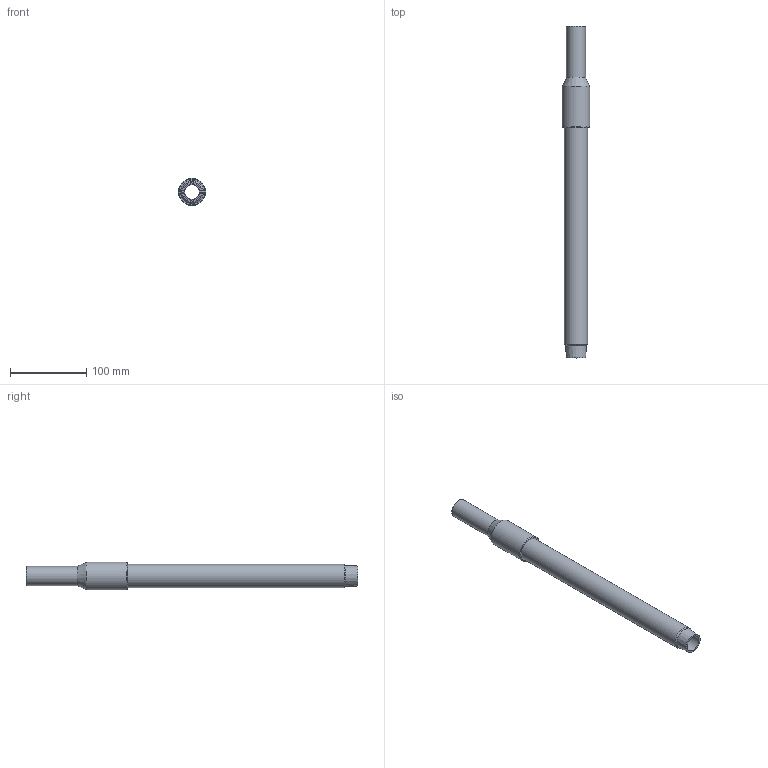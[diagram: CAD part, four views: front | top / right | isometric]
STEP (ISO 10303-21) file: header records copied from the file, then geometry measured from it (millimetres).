
FILE_DESCRIPTION(/* description */ ('Unknown'),/* implementation_level */ '2;1');
FILE_NAME(/* name */ 'RTFZRP025C',/* time_stamp */ '2022-04-27T08:46:37+02:00',/* author */ ('Unknown'),/* organization */ ('Unknown'),/* preprocessor_version */ 'ST-DEVELOPER v18.1',/* originating_system */ 'Solid Edge',/* authorisation */ 'Unknown');
FILE_SCHEMA (('AUTOMOTIVE_DESIGN {1 0 10303 214 3 1 1}'));
Length unit declared in the file: millimetre
Products named in the file (4): RTFZRP025C; Partea ACCIAIO; copertura tubo; Parte PE_
Assembly tree (3 placements, depth 2):
  RTFZRP025C
    Partea ACCIAIO
    copertura tubo
    Parte PE_
Bounding box: 36 x 435 x 36 mm (x, y, z)
Volume: 169773.4 mm3; surface area: 137467.2 mm2
Topology: 3 solids, 3 shells, 20 faces, 35 edges, 22 vertices
Faces by surface type: cylinder 8, plane 7, cone 3, torus 2
Full cylindrical faces by diameter (mm): 19 x1, 21.7 x1, 25 x1, 26.428 x1, 26.9 x2, 30.5 x1, 36 x1
Entity records: 554 total; most frequent: DIRECTION 88, CARTESIAN_POINT 64, AXIS2_PLACEMENT_3D 44, ORIENTED_EDGE 40, EDGE_LOOP 40, FACE_BOUND 40, EDGE_CURVE 20, VERTEX_POINT 20
